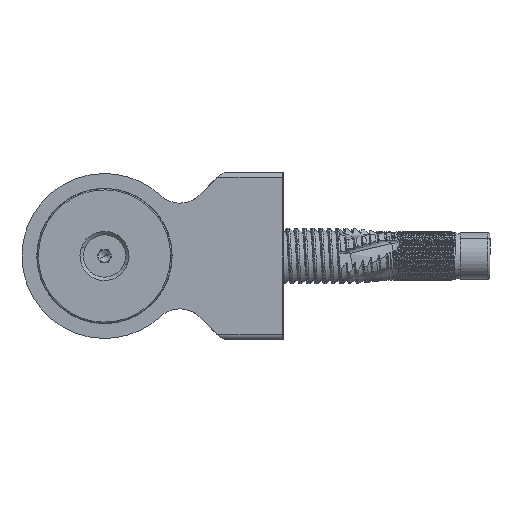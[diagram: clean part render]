
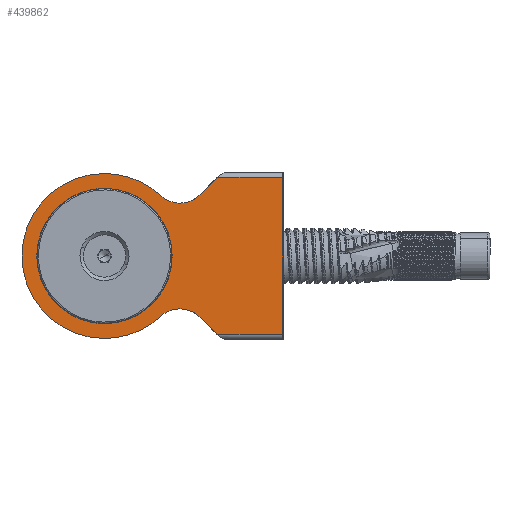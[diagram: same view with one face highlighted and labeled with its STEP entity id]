
A CAD part, left-side view. The second image highlights one B-rep face of the part: STEP entity #439862.
In plain terms, the highlighted planar face has unit normal (-1, 0, 0).
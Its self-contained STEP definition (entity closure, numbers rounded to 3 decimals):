
#8151 = VERTEX_POINT ( 'NONE', #348882 ) ;
#8841 = CARTESIAN_POINT ( 'NONE',  ( -39.45, -17.841, -19.237 ) ) ;
#8901 = CIRCLE ( 'NONE', #112708, 19.5 ) ;
#11281 = CARTESIAN_POINT ( 'NONE',  ( -39.45, -42.125, -18.634 ) ) ;
#14725 = CARTESIAN_POINT ( 'NONE',  ( -39.45, -13.26, -14.297 ) ) ;
#31033 = CARTESIAN_POINT ( 'NONE',  ( -39.45, -22.605, -14.473 ) ) ;
#31713 = LINE ( 'NONE', #472159, #343356 ) ;
#37178 = DIRECTION ( 'NONE',  ( -1., 0., 0. ) ) ;
#39827 = VECTOR ( 'NONE', #148840, 1000. ) ;
#42115 = DIRECTION ( 'NONE',  ( 0., 0., 1. ) ) ;
#44814 = EDGE_CURVE ( 'NONE', #435641, #114441, #341855, .T. ) ;
#45587 = DIRECTION ( 'NONE',  ( 1., 0., 0. ) ) ;
#47733 = VECTOR ( 'NONE', #103269, 1000. ) ;
#51748 = DIRECTION ( 'NONE',  ( 0., 0., 1. ) ) ;
#52224 = EDGE_CURVE ( 'NONE', #65175, #315080, #340902, .T. ) ;
#65175 = VERTEX_POINT ( 'NONE', #184778 ) ;
#70502 = DIRECTION ( 'NONE',  ( 1., 0., 0. ) ) ;
#71640 = CIRCLE ( 'NONE', #270932, 19.5 ) ;
#73620 = ORIENTED_EDGE ( 'NONE', *, *, #368849, .T. ) ;
#74241 = EDGE_CURVE ( 'NONE', #114441, #310458, #31713, .T. ) ;
#75577 = CARTESIAN_POINT ( 'NONE',  ( -39.45, -42.175, 18.25 ) ) ;
#77152 = FACE_OUTER_BOUND ( 'NONE', #262456, .T. ) ;
#82222 = DIRECTION ( 'NONE',  ( 0., -1., 0. ) ) ;
#88790 = DIRECTION ( 'NONE',  ( -1., 0., 0. ) ) ;
#90481 = ORIENTED_EDGE ( 'NONE', *, *, #242946, .F. ) ;
#93030 = ORIENTED_EDGE ( 'NONE', *, *, #139775, .F. ) ;
#102496 = EDGE_CURVE ( 'NONE', #155433, #182397, #8901, .T. ) ;
#103081 = EDGE_CURVE ( 'NONE', #8151, #322010, #248209, .T. ) ;
#103269 = DIRECTION ( 'NONE',  ( 0., 0.707, 0.707 ) ) ;
#106690 = DIRECTION ( 'NONE',  ( 0., 1., 0. ) ) ;
#108187 = CARTESIAN_POINT ( 'NONE',  ( -39.45, -5.066, 3.066 ) ) ;
#112708 = AXIS2_PLACEMENT_3D ( 'NONE', #465674, #385799, #193534 ) ;
#114441 = VERTEX_POINT ( 'NONE', #11281 ) ;
#119565 = FACE_BOUND ( 'NONE', #399957, .T. ) ;
#121326 = DIRECTION ( 'NONE',  ( 0., 0., 1. ) ) ;
#121787 = CARTESIAN_POINT ( 'NONE',  ( -39.45, -17.841, -19.237 ) ) ;
#123180 = CIRCLE ( 'NONE', #394514, 6.737 ) ;
#125729 = CIRCLE ( 'NONE', #253360, 15.999 ) ;
#127924 = ORIENTED_EDGE ( 'NONE', *, *, #102496, .F. ) ;
#135095 = CIRCLE ( 'NONE', #366473, 6.737 ) ;
#139054 = CIRCLE ( 'NONE', #266633, 15.999 ) ;
#139775 = EDGE_CURVE ( 'NONE', #310458, #287751, #445377, .T. ) ;
#140898 = DIRECTION ( 'NONE',  ( 0., 0., 1. ) ) ;
#143128 = DIRECTION ( 'NONE',  ( 0., 0., 1. ) ) ;
#144173 = EDGE_CURVE ( 'NONE', #182397, #8151, #71640, .T. ) ;
#148840 = DIRECTION ( 'NONE',  ( 0., -0.707, 0.707 ) ) ;
#152335 = CARTESIAN_POINT ( 'NONE',  ( -39.45, -42.175, -18.381 ) ) ;
#154693 = VECTOR ( 'NONE', #450295, 1000. ) ;
#155433 = VERTEX_POINT ( 'NONE', #14725 ) ;
#156217 = CARTESIAN_POINT ( 'NONE',  ( -39.45, -22.605, 14.473 ) ) ;
#164182 = DIRECTION ( 'NONE',  ( -1., 0., 0. ) ) ;
#172403 = EDGE_CURVE ( 'NONE', #315080, #435641, #485323, .T. ) ;
#175759 = EDGE_CURVE ( 'NONE', #315389, #326305, #139054, .T. ) ;
#182397 = VERTEX_POINT ( 'NONE', #184109 ) ;
#184109 = CARTESIAN_POINT ( 'NONE',  ( -39.45, 0., -19.5 ) ) ;
#184778 = CARTESIAN_POINT ( 'NONE',  ( -39.45, -42.125, 18.634 ) ) ;
#193534 = DIRECTION ( 'NONE',  ( 0., 0., 1. ) ) ;
#197658 = CARTESIAN_POINT ( 'NONE',  ( -39.45, -42.175, 18.25 ) ) ;
#200432 = CARTESIAN_POINT ( 'NONE',  ( -39.45, 0., 0. ) ) ;
#210644 = VERTEX_POINT ( 'NONE', #455826 ) ;
#211731 = CARTESIAN_POINT ( 'NONE',  ( -39.45, -42.175, 18.25 ) ) ;
#212596 = ORIENTED_EDGE ( 'NONE', *, *, #52224, .F. ) ;
#215604 = DIRECTION ( 'NONE',  ( 1., 0., 0. ) ) ;
#218053 = CARTESIAN_POINT ( 'NONE',  ( -39.45, 0., 0. ) ) ;
#218288 = DIRECTION ( 'NONE',  ( -1., 0., 0. ) ) ;
#233607 = LINE ( 'NONE', #156217, #39827 ) ;
#233655 = CARTESIAN_POINT ( 'NONE',  ( -39.45, 0., 0. ) ) ;
#234414 = PLANE ( 'NONE',  #302975 ) ;
#234656 = CARTESIAN_POINT ( 'NONE',  ( -39.45, -42.125, -18.634 ) ) ;
#236131 = DIRECTION ( 'NONE',  ( 0., 0., 1. ) ) ;
#239697 = ORIENTED_EDGE ( 'NONE', *, *, #281778, .F. ) ;
#240668 = CARTESIAN_POINT ( 'NONE',  ( -39.45, 0., 15.999 ) ) ;
#242946 = EDGE_CURVE ( 'NONE', #210644, #334659, #233607, .T. ) ;
#248209 = CIRCLE ( 'NONE', #304143, 19.5 ) ;
#248599 = CARTESIAN_POINT ( 'NONE',  ( -39.45, -42.175, -18.25 ) ) ;
#253360 = AXIS2_PLACEMENT_3D ( 'NONE', #292843, #70502, #332781 ) ;
#254136 = CARTESIAN_POINT ( 'NONE',  ( -39.45, -42.157, 18.509 ) ) ;
#262456 = EDGE_LOOP ( 'NONE', ( #90481, #435526, #475038, #374811, #127924, #358873, #459900, #93030, #490313, #405007, #408633, #212596, #239697 ) ) ;
#262457 = CARTESIAN_POINT ( 'NONE',  ( -39.45, -26.766, -18.634 ) ) ;
#266633 = AXIS2_PLACEMENT_3D ( 'NONE', #233655, #460930, #236131 ) ;
#270932 = AXIS2_PLACEMENT_3D ( 'NONE', #200432, #45587, #427688 ) ;
#281778 = EDGE_CURVE ( 'NONE', #334659, #65175, #356831, .T. ) ;
#287751 = VERTEX_POINT ( 'NONE', #31033 ) ;
#291567 = CARTESIAN_POINT ( 'NONE',  ( -39.45, -42.125, 18.634 ) ) ;
#292843 = CARTESIAN_POINT ( 'NONE',  ( -39.45, 0., 0. ) ) ;
#302975 = AXIS2_PLACEMENT_3D ( 'NONE', #421753, #37178, #42115 ) ;
#304143 = AXIS2_PLACEMENT_3D ( 'NONE', #218053, #215604, #143128 ) ;
#304672 = CARTESIAN_POINT ( 'NONE',  ( -39.45, -42.157, -18.509 ) ) ;
#310458 = VERTEX_POINT ( 'NONE', #262457 ) ;
#312451 = CARTESIAN_POINT ( 'NONE',  ( -39.45, -13.26, 14.297 ) ) ;
#315080 = VERTEX_POINT ( 'NONE', #197658 ) ;
#315389 = VERTEX_POINT ( 'NONE', #350003 ) ;
#322010 = VERTEX_POINT ( 'NONE', #312451 ) ;
#326305 = VERTEX_POINT ( 'NONE', #240668 ) ;
#330648 = CIRCLE ( 'NONE', #418316, 6.737 ) ;
#332781 = DIRECTION ( 'NONE',  ( 0., 0., 1. ) ) ;
#334659 = VERTEX_POINT ( 'NONE', #338858 ) ;
#338858 = CARTESIAN_POINT ( 'NONE',  ( -39.45, -26.766, 18.634 ) ) ;
#340902 = B_SPLINE_CURVE_WITH_KNOTS ( 'NONE', 3,
 ( #291567, #254136, #361623, #211731 ),
 .UNSPECIFIED., .F., .F.,
 ( 4, 4 ),
 ( 0., 0.001 ),
 .UNSPECIFIED. ) ;
#341855 = B_SPLINE_CURVE_WITH_KNOTS ( 'NONE', 3,
 ( #464408, #152335, #304672, #234656 ),
 .UNSPECIFIED., .F., .F.,
 ( 4, 4 ),
 ( 0.002, 0.002 ),
 .UNSPECIFIED. ) ;
#343356 = VECTOR ( 'NONE', #106690, 1000. ) ;
#348882 = CARTESIAN_POINT ( 'NONE',  ( -39.45, 0., 19.5 ) ) ;
#350003 = CARTESIAN_POINT ( 'NONE',  ( -39.45, 0., -15.999 ) ) ;
#356831 = LINE ( 'NONE', #424360, #445776 ) ;
#358873 = ORIENTED_EDGE ( 'NONE', *, *, #432352, .F. ) ;
#361623 = CARTESIAN_POINT ( 'NONE',  ( -39.45, -42.175, 18.379 ) ) ;
#366473 = AXIS2_PLACEMENT_3D ( 'NONE', #8841, #88790, #121326 ) ;
#368849 = EDGE_CURVE ( 'NONE', #326305, #315389, #125729, .T. ) ;
#374811 = ORIENTED_EDGE ( 'NONE', *, *, #144173, .F. ) ;
#385799 = DIRECTION ( 'NONE',  ( 1., 0., 0. ) ) ;
#394514 = AXIS2_PLACEMENT_3D ( 'NONE', #487952, #218288, #140898 ) ;
#399263 = VERTEX_POINT ( 'NONE', #440032 ) ;
#399957 = EDGE_LOOP ( 'NONE', ( #73620, #413528 ) ) ;
#405007 = ORIENTED_EDGE ( 'NONE', *, *, #44814, .F. ) ;
#408633 = ORIENTED_EDGE ( 'NONE', *, *, #172403, .F. ) ;
#413528 = ORIENTED_EDGE ( 'NONE', *, *, #175759, .T. ) ;
#418316 = AXIS2_PLACEMENT_3D ( 'NONE', #121787, #164182, #51748 ) ;
#421753 = CARTESIAN_POINT ( 'NONE',  ( -39.45, -20.25, 18.25 ) ) ;
#424360 = CARTESIAN_POINT ( 'NONE',  ( -39.45, -20.25, 18.634 ) ) ;
#427688 = DIRECTION ( 'NONE',  ( 0., 0., 1. ) ) ;
#432352 = EDGE_CURVE ( 'NONE', #399263, #155433, #135095, .T. ) ;
#435526 = ORIENTED_EDGE ( 'NONE', *, *, #486439, .F. ) ;
#435641 = VERTEX_POINT ( 'NONE', #248599 ) ;
#439862 = ADVANCED_FACE ( 'NONE', ( #119565, #77152 ), #234414, .T. ) ;
#440032 = CARTESIAN_POINT ( 'NONE',  ( -39.45, -17.841, -12.5 ) ) ;
#445377 = LINE ( 'NONE', #108187, #47733 ) ;
#445776 = VECTOR ( 'NONE', #82222, 1000. ) ;
#450295 = DIRECTION ( 'NONE',  ( 0., 0., -1. ) ) ;
#455826 = CARTESIAN_POINT ( 'NONE',  ( -39.45, -22.605, 14.473 ) ) ;
#459900 = ORIENTED_EDGE ( 'NONE', *, *, #483634, .F. ) ;
#460930 = DIRECTION ( 'NONE',  ( 1., 0., 0. ) ) ;
#464408 = CARTESIAN_POINT ( 'NONE',  ( -39.45, -42.175, -18.25 ) ) ;
#465674 = CARTESIAN_POINT ( 'NONE',  ( -39.45, 0., 0. ) ) ;
#472159 = CARTESIAN_POINT ( 'NONE',  ( -39.45, -20.25, -18.634 ) ) ;
#475038 = ORIENTED_EDGE ( 'NONE', *, *, #103081, .F. ) ;
#483634 = EDGE_CURVE ( 'NONE', #287751, #399263, #330648, .T. ) ;
#485323 = LINE ( 'NONE', #75577, #154693 ) ;
#486439 = EDGE_CURVE ( 'NONE', #322010, #210644, #123180, .T. ) ;
#487952 = CARTESIAN_POINT ( 'NONE',  ( -39.45, -17.841, 19.237 ) ) ;
#490313 = ORIENTED_EDGE ( 'NONE', *, *, #74241, .F. ) ;
